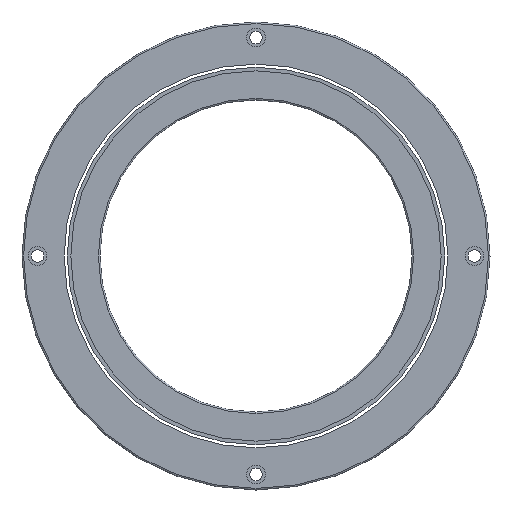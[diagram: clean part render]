
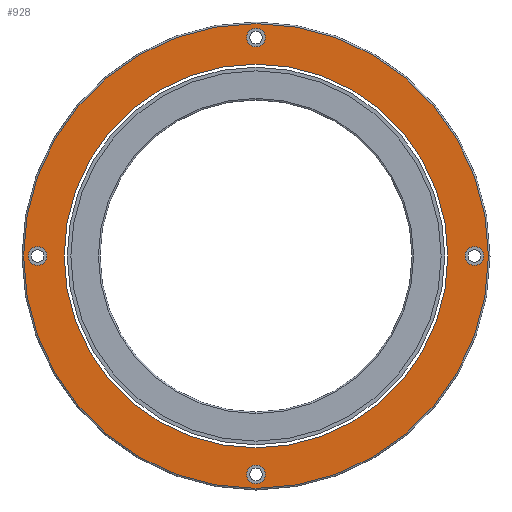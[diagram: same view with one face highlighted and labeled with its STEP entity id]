
A CAD part, front view. The second image highlights one B-rep face of the part: STEP entity #928.
In plain terms, the highlighted planar face has unit normal (0, -1, 0).
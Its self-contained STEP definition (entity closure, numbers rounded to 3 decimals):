
#43=CARTESIAN_POINT('',(0.,0.,0.));
#44=DIRECTION('',(0.,-1.,0.));
#45=DIRECTION('',(-1.,0.,0.));
#46=AXIS2_PLACEMENT_3D('',#43,#44,#45);
#48=CARTESIAN_POINT('',(0.,0.,0.));
#49=DIRECTION('',(0.,1.,0.));
#50=DIRECTION('',(-1.,0.,0.));
#51=AXIS2_PLACEMENT_3D('',#48,#49,#50);
#53=CARTESIAN_POINT('',(-70.,0.,0.));
#54=DIRECTION('',(0.,1.,0.));
#55=DIRECTION('',(1.,0.,0.));
#56=AXIS2_PLACEMENT_3D('',#53,#54,#55);
#58=CARTESIAN_POINT('',(-70.,0.,0.));
#59=DIRECTION('',(0.,1.,0.));
#60=DIRECTION('',(-1.,0.,0.));
#61=AXIS2_PLACEMENT_3D('',#58,#59,#60);
#63=CARTESIAN_POINT('',(0.,0.,70.));
#64=DIRECTION('',(0.,1.,0.));
#65=DIRECTION('',(0.,0.,-1.));
#66=AXIS2_PLACEMENT_3D('',#63,#64,#65);
#68=CARTESIAN_POINT('',(0.,0.,70.));
#69=DIRECTION('',(0.,1.,0.));
#70=DIRECTION('',(0.,0.,1.));
#71=AXIS2_PLACEMENT_3D('',#68,#69,#70);
#73=CARTESIAN_POINT('',(70.,0.,0.));
#74=DIRECTION('',(0.,1.,0.));
#75=DIRECTION('',(-1.,0.,0.));
#76=AXIS2_PLACEMENT_3D('',#73,#74,#75);
#78=CARTESIAN_POINT('',(70.,0.,0.));
#79=DIRECTION('',(0.,1.,0.));
#80=DIRECTION('',(1.,0.,0.));
#81=AXIS2_PLACEMENT_3D('',#78,#79,#80);
#83=CARTESIAN_POINT('',(0.,0.,-70.));
#84=DIRECTION('',(0.,1.,0.));
#85=DIRECTION('',(0.,0.,1.));
#86=AXIS2_PLACEMENT_3D('',#83,#84,#85);
#88=CARTESIAN_POINT('',(0.,0.,-70.));
#89=DIRECTION('',(0.,1.,0.));
#90=DIRECTION('',(0.,0.,-1.));
#91=AXIS2_PLACEMENT_3D('',#88,#89,#90);
#93=CARTESIAN_POINT('',(0.,0.,0.));
#94=DIRECTION('',(0.,1.,0.));
#95=DIRECTION('',(-1.,0.,0.));
#96=AXIS2_PLACEMENT_3D('',#93,#94,#95);
#98=CARTESIAN_POINT('',(0.,0.,0.));
#99=DIRECTION('',(0.,1.,0.));
#100=DIRECTION('',(1.,0.,0.));
#101=AXIS2_PLACEMENT_3D('',#98,#99,#100);
#751=CARTESIAN_POINT('',(-67.,0.,0.));
#752=VERTEX_POINT('',#751);
#753=CARTESIAN_POINT('',(-73.,0.,0.));
#754=VERTEX_POINT('',#753);
#763=CARTESIAN_POINT('',(0.,0.,67.));
#764=VERTEX_POINT('',#763);
#765=CARTESIAN_POINT('',(0.,0.,73.));
#766=VERTEX_POINT('',#765);
#775=CARTESIAN_POINT('',(67.,0.,0.));
#776=VERTEX_POINT('',#775);
#777=CARTESIAN_POINT('',(73.,0.,0.));
#778=VERTEX_POINT('',#777);
#787=CARTESIAN_POINT('',(0.,0.,-67.));
#788=VERTEX_POINT('',#787);
#789=CARTESIAN_POINT('',(0.,0.,-73.));
#790=VERTEX_POINT('',#789);
#808=CARTESIAN_POINT('',(-61.5,0.,0.));
#810=VERTEX_POINT('',#808);
#812=CARTESIAN_POINT('',(61.5,0.,0.));
#814=VERTEX_POINT('',#812);
#827=CARTESIAN_POINT('',(-74.5,0.,0.));
#828=CARTESIAN_POINT('',(74.5,0.,0.));
#829=VERTEX_POINT('',#827);
#830=VERTEX_POINT('',#828);
#889=CARTESIAN_POINT('',(0.,0.,0.));
#890=DIRECTION('',(0.,1.,0.));
#891=DIRECTION('',(1.,0.,0.));
#892=AXIS2_PLACEMENT_3D('',#889,#890,#891);
#893=PLANE('',#892);
#895=ORIENTED_EDGE('',*,*,#894,.T.);
#897=ORIENTED_EDGE('',*,*,#896,.T.);
#898=EDGE_LOOP('',(#895,#897));
#899=FACE_OUTER_BOUND('',#898,.F.);
#900=ORIENTED_EDGE('',*,*,#868,.F.);
#901=ORIENTED_EDGE('',*,*,#884,.F.);
#902=EDGE_LOOP('',(#900,#901));
#903=FACE_BOUND('',#902,.F.);
#905=ORIENTED_EDGE('',*,*,#904,.F.);
#907=ORIENTED_EDGE('',*,*,#906,.F.);
#908=EDGE_LOOP('',(#905,#907));
#909=FACE_BOUND('',#908,.F.);
#911=ORIENTED_EDGE('',*,*,#910,.F.);
#913=ORIENTED_EDGE('',*,*,#912,.F.);
#914=EDGE_LOOP('',(#911,#913));
#915=FACE_BOUND('',#914,.F.);
#917=ORIENTED_EDGE('',*,*,#916,.F.);
#919=ORIENTED_EDGE('',*,*,#918,.F.);
#920=EDGE_LOOP('',(#917,#919));
#921=FACE_BOUND('',#920,.F.);
#923=ORIENTED_EDGE('',*,*,#922,.T.);
#925=ORIENTED_EDGE('',*,*,#924,.F.);
#926=EDGE_LOOP('',(#923,#925));
#927=FACE_BOUND('',#926,.F.);
#47=CIRCLE('',#46,61.5);
#52=CIRCLE('',#51,61.5);
#57=CIRCLE('',#56,3.);
#62=CIRCLE('',#61,3.);
#67=CIRCLE('',#66,3.);
#72=CIRCLE('',#71,3.);
#77=CIRCLE('',#76,3.);
#82=CIRCLE('',#81,3.);
#87=CIRCLE('',#86,3.);
#92=CIRCLE('',#91,3.);
#97=CIRCLE('',#96,74.5);
#102=CIRCLE('',#101,74.5);
#868=EDGE_CURVE('',#752,#754,#57,.T.);
#884=EDGE_CURVE('',#754,#752,#62,.T.);
#894=EDGE_CURVE('',#829,#830,#97,.T.);
#896=EDGE_CURVE('',#830,#829,#102,.T.);
#904=EDGE_CURVE('',#764,#766,#67,.T.);
#906=EDGE_CURVE('',#766,#764,#72,.T.);
#910=EDGE_CURVE('',#776,#778,#77,.T.);
#912=EDGE_CURVE('',#778,#776,#82,.T.);
#916=EDGE_CURVE('',#788,#790,#87,.T.);
#918=EDGE_CURVE('',#790,#788,#92,.T.);
#922=EDGE_CURVE('',#810,#814,#47,.T.);
#924=EDGE_CURVE('',#810,#814,#52,.T.);
#928=ADVANCED_FACE('',(#899,#903,#909,#915,#921,#927),#893,.F.);
